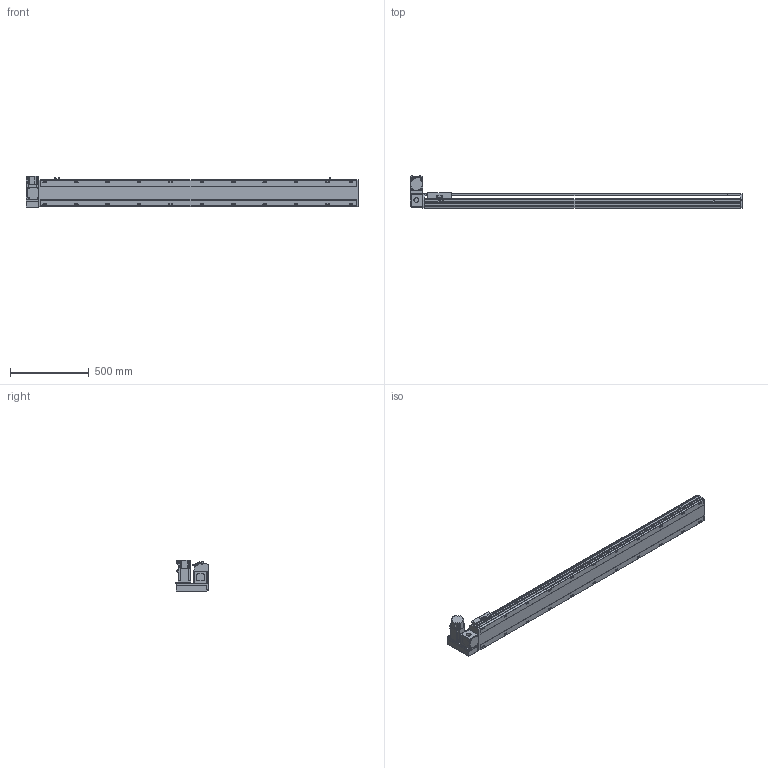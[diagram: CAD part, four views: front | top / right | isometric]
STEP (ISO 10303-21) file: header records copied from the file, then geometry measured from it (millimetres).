
FILE_DESCRIPTION( ( 'STEP AP214' ), '1' );
FILE_NAME( 'x:/temp/worker_4/temp/exporttempdir_2248_407_k62Vi/format_0/PBS170-P40-S1750-LU-T75-C1-N(0).stp', '2022-06-07T08:16:25', ( 'License CC BY-ND 4.0' ), ( 'CADENAS' ), ' ', 'PARTsolutions', ' ' );
FILE_SCHEMA( ( 'AUTOMOTIVE_DESIGN { 1 0 10303 214 1 1 1 1 }' ) );
Length unit declared in the file: millimetre
Products named in the file (7): PBS170-P40-S1750-LU-T75-C1-N(0); _PBS170-S1750()_body; _PBS170T-LU_motors; _T75-p1; _PBS170_sliser; _PBS170_plant; _PBS170_sensor
Assembly tree (8 placements, depth 2):
  PBS170-P40-S1750-LU-T75-C1-N(0)
    _PBS170-S1750()_body
    _PBS170T-LU_motors
    _T75-p1
    _PBS170_sliser
    _PBS170_plant
    _PBS170_sensor  x3
Bounding box: 2113 x 206 x 197.3 mm (x, y, z)
Volume: 16334979.5 mm3; surface area: 2084694 mm2
Topology: 8 solids, 8 shells, 1130 faces, 2995 edges, 1952 vertices
Faces by surface type: plane 705, cylinder 363, cone 52, sphere 8, torus 2
Full cylindrical faces by diameter (mm): 3.242 x4, 4 x2, 4.4 x4, 4.5 x6, 4.917 x4, 6 x9, 6.647 x30, 7 x2, 7.5 x4, 8 x8, 8.5 x22, 10 x4, 10.5 x22, 11 x2, 30 x2, 40 x1, 70 x1
Entity records: 41666 total; most frequent: CARTESIAN_POINT 6725, DIRECTION 5510, ORIENTED_EDGE 5208, EDGE_CURVE 2604, AXIS2_PLACEMENT_3D 1927, VERTEX_POINT 1802, LINE 1656, VECTOR 1656
